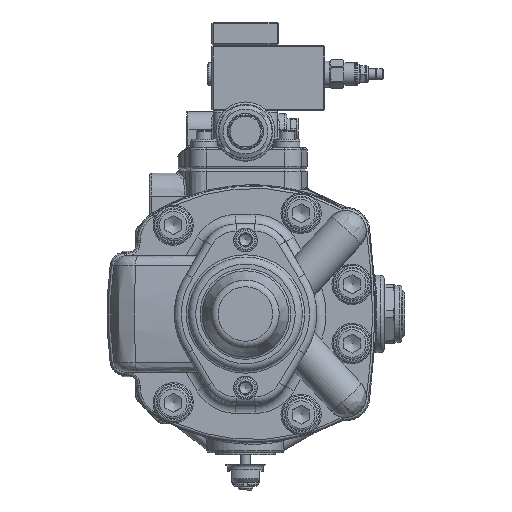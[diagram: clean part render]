
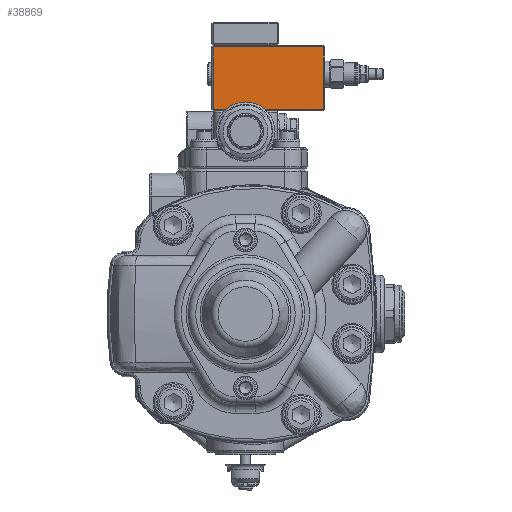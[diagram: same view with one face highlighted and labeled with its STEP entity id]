
A CAD part, front view. The second image highlights one B-rep face of the part: STEP entity #38869.
In plain terms, the highlighted planar face has unit normal (0, -1, 0).
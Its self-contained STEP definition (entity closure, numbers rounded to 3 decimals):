
#2084=LINE('',#57252,#4366);
#2086=LINE('',#57256,#4368);
#2089=LINE('',#57260,#4371);
#2095=LINE('',#57271,#4377);
#4366=VECTOR('',#46346,10.);
#4368=VECTOR('',#46352,10.);
#4371=VECTOR('',#46357,10.);
#4377=VECTOR('',#46373,10.);
#6507=PLANE('',#41462);
#7431=FACE_OUTER_BOUND('',#9775,.T.);
#9775=EDGE_LOOP('',(#25794,#25795,#25796,#25797));
#15532=VERTEX_POINT('',#57224);
#15533=VERTEX_POINT('',#57228);
#15538=VERTEX_POINT('',#57242);
#15540=VERTEX_POINT('',#57247);
#19363=EDGE_CURVE('',#15540,#15538,#2084,.T.);
#19365=EDGE_CURVE('',#15533,#15540,#2086,.T.);
#19368=EDGE_CURVE('',#15538,#15532,#2089,.T.);
#19374=EDGE_CURVE('',#15532,#15533,#2095,.T.);
#25794=ORIENTED_EDGE('',*,*,#19363,.F.);
#25795=ORIENTED_EDGE('',*,*,#19365,.F.);
#25796=ORIENTED_EDGE('',*,*,#19374,.F.);
#25797=ORIENTED_EDGE('',*,*,#19368,.F.);
#38869=ADVANCED_FACE('',(#7431),#6507,.T.);
#41462=AXIS2_PLACEMENT_3D('',#57285,#46390,#46391);
#46346=DIRECTION('',(1.,0.,0.));
#46352=DIRECTION('',(0.,0.,1.));
#46357=DIRECTION('',(0.,0.,-1.));
#46373=DIRECTION('',(-1.,0.,0.));
#46390=DIRECTION('center_axis',(0.,-1.,0.));
#46391=DIRECTION('ref_axis',(0.,0.,
1.));
#57224=CARTESIAN_POINT('',(69.311,-61.312,173.499));
#57228=CARTESIAN_POINT('',(-23.689,-61.312,173.499));
#57242=CARTESIAN_POINT('',(69.311,-61.312,226.499));
#57247=CARTESIAN_POINT('',(-23.689,-61.312,226.499));
#57252=CARTESIAN_POINT('',(-0.939,-61.312,226.499));
#57256=CARTESIAN_POINT('',(-23.689,-61.312,227.499));
#57260=CARTESIAN_POINT('',(69.311,-61.312,227.499));
#57271=CARTESIAN_POINT('',(-0.939,-61.312,173.499));
#57285=CARTESIAN_POINT('Origin',(-24.689,-61.312,227.499));
